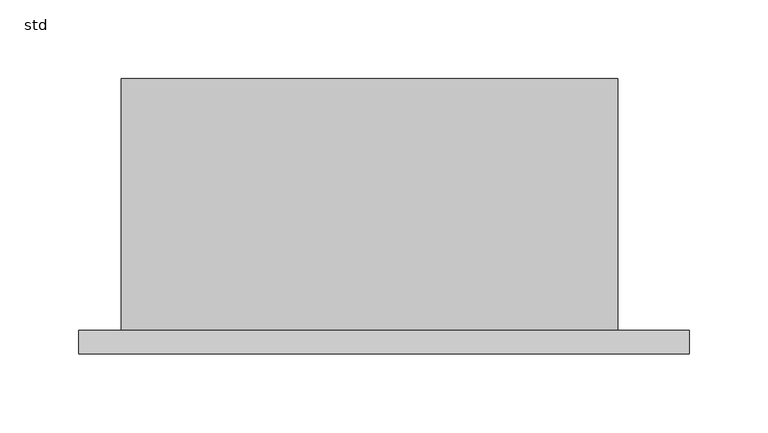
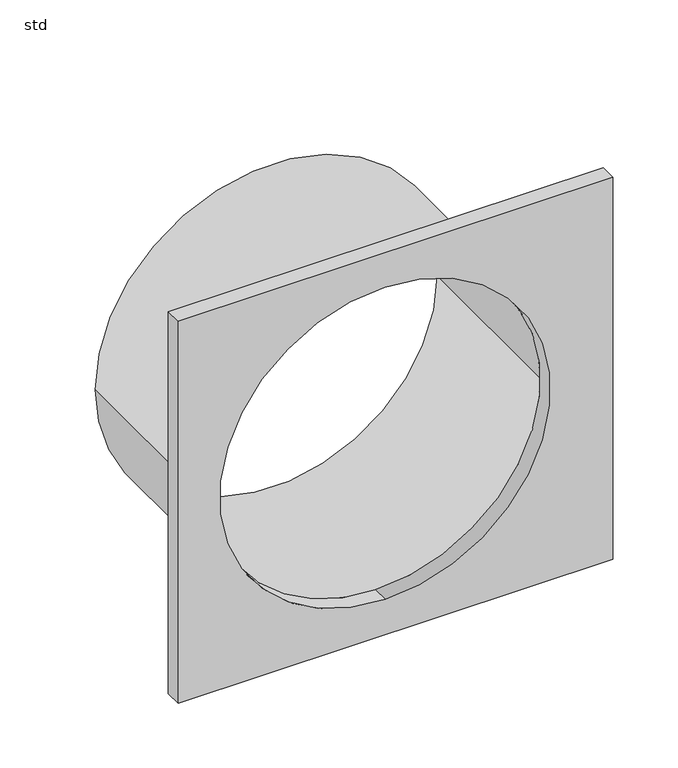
"""IFC4 building model written with IfcOpenShell, lengths in millimetres: pipe fitting geometry, Z_ME_UN_Q-Bic_Plus_Spigot_Plate_315_Wavin_(nested) : std."""

import ifcopenshell
import ifcopenshell.guid

model = None  # the IFC model being written
_history = None  # IfcOwnerHistory: only IFC2X3 demands one
_inside = {}  # id of a spatial element -> (the spatial element, [elements in it])
_under = {}  # id of a project, library or spatial element -> (it, [spatial elements below it])
_declared = {}  # id of a project -> (the project, [libraries it declares])
_typed = {}  # id of a type object -> (the type object, [elements of that type])
_made_of = {}  # id of a material, layer set ... -> (it, [elements and type objects made of it])


def new_model(schema):
    """Start an empty IFC model of exactly this schema.

    Asked for "IFC4X3", IfcOpenShell would pick the latest addendum, in which some entities
    have other attributes; the version numbers below select the first issue.
    IFC2X3 requires an IfcOwnerHistory on every rooted entity: one is made here for all.
    """
    global model, _history
    if schema == "IFC4X3":
        model = ifcopenshell.file(schema_version=(4, 3, 0, 0))
    else:
        model = ifcopenshell.file(schema=schema)
    _inside.clear()
    _under.clear()
    _declared.clear()
    _typed.clear()
    _made_of.clear()
    _history = None
    if model.schema == "IFC2X3":
        org = make("IfcOrganization", Name="unknown")
        user = make(
            "IfcPersonAndOrganization",
            ThePerson=make("IfcPerson", FamilyName="unknown"),
            TheOrganization=org,
        )
        app = make(
            "IfcApplication",
            ApplicationDeveloper=org,
            Version="unknown",
            ApplicationFullName="unknown",
            ApplicationIdentifier="unknown",
        )
        _history = make(
            "IfcOwnerHistory",
            OwningUser=user,
            OwningApplication=app,
            ChangeAction="ADDED",
            CreationDate=0,
        )
    return model


def make(cls, **values):
    """One entity of the class cls with the attributes given. An attribute that is None is left unset."""
    return model.create_entity(
        cls, **{name: value for name, value in values.items() if value is not None}
    )


def rooted(cls, **values):
    """An entity with a GlobalId (a new one), such as an element, a storey or a relation."""
    return make(cls, GlobalId=ifcopenshell.guid.new(), OwnerHistory=_history, **values)


def si_unit(unit_type, name, prefix=None):
    """IfcSIUnit, for example si_unit("LENGTHUNIT", "METRE", prefix="MILLI")."""
    return make("IfcSIUnit", UnitType=unit_type, Prefix=prefix, Name=name)


def assignment(units):
    """IfcUnitAssignment: the units of a project."""
    return None if units is None else make("IfcUnitAssignment", Units=units)


def point(xyz):
    """IfcCartesianPoint."""
    return None if xyz is None else make("IfcCartesianPoint", Coordinates=xyz)


def direction(xyz):
    """IfcDirection."""
    return None if xyz is None else make("IfcDirection", DirectionRatios=xyz)


def frame(location, z_axis=None, x_axis=None):
    """IfcAxis2Placement3D, a coordinate frame: its origin and axes. An axis left out is left unset."""
    return make(
        "IfcAxis2Placement3D",
        Location=point(location),
        Axis=direction(z_axis),
        RefDirection=direction(x_axis),
    )


def frame_2d(location, x_axis=None):
    """IfcAxis2Placement2D, a coordinate frame in the plane: its origin and x axis."""
    return make(
        "IfcAxis2Placement2D", Location=point(location), RefDirection=direction(x_axis)
    )


def origin():
    """The frame at (0, 0, 0) with its axes left unset."""
    return frame((0.0, 0.0, 0.0))


def place(relative_to, where):
    """IfcLocalPlacement: puts the frame where relative to a parent placement (None: the world)."""
    return make(
        "IfcLocalPlacement", PlacementRelTo=relative_to, RelativePlacement=where
    )


def context(
    kind, dimensions, precision=None, world=None, true_north=None, identifier=None
):
    """IfcGeometricRepresentationContext, for example the 3D "Model" context."""
    return make(
        "IfcGeometricRepresentationContext",
        ContextIdentifier=identifier,
        ContextType=kind,
        CoordinateSpaceDimension=dimensions,
        Precision=precision,
        WorldCoordinateSystem=world,
        TrueNorth=true_north,
    )


def project(units=None, contexts=None):
    """IfcProject with its units and contexts."""
    return rooted(
        "IfcProject",
        Name="project",
        RepresentationContexts=contexts,
        UnitsInContext=assignment(units),
    )


def spatial(cls, under=None, at=None, **own):
    """A site, building, storey or space (cls), placed at a placement, below another one or the project."""
    s = rooted(cls, ObjectPlacement=at, **own)
    if under is not None:
        _under.setdefault(under.id(), (under, []))[1].append(s)
    return s


def polyline(points):
    """IfcPolyline through the points."""
    return make("IfcPolyline", Points=[point(p) for p in points])


def circle_curve(where, radius):
    """IfcCircle in the frame where."""
    return make("IfcCircle", Position=where, Radius=radius)


def trimmed(basis, trim1, trim2, sense, master):
    """IfcTrimmedCurve: the piece of a basis curve between two trims."""
    return make(
        "IfcTrimmedCurve",
        BasisCurve=basis,
        Trim1=trim1,
        Trim2=trim2,
        SenseAgreement=sense,
        MasterRepresentation=master,
    )


def segment(curve, same_sense, transition):
    """IfcCompositeCurveSegment."""
    return make(
        "IfcCompositeCurveSegment",
        Transition=transition,
        SameSense=same_sense,
        ParentCurve=curve,
    )


def composite_curve(segments, self_intersect=None):
    """IfcCompositeCurve: segments joined end to end."""
    return make("IfcCompositeCurve", Segments=segments, SelfIntersect=self_intersect)


def outline(outer, holes=None, kind="AREA"):
    """IfcArbitraryClosedProfileDef: a profile drawn as a closed curve; with holes, ...WithVoids."""
    if holes is None:
        return make("IfcArbitraryClosedProfileDef", ProfileType=kind, OuterCurve=outer)
    return make(
        "IfcArbitraryProfileDefWithVoids",
        ProfileType=kind,
        OuterCurve=outer,
        InnerCurves=holes,
    )


def extrude(swept, where, along, depth):
    """IfcExtrudedAreaSolid: the profile swept, set in the frame where, extruded along a direction by depth."""
    return make(
        "IfcExtrudedAreaSolid",
        SweptArea=swept,
        Position=where,
        ExtrudedDirection=direction(along),
        Depth=depth,
    )


def shape(context_of_items, identifier, shape_type, items):
    """IfcShapeRepresentation: the items that make up one representation, for example the "Body"."""
    return make(
        "IfcShapeRepresentation",
        ContextOfItems=context_of_items,
        RepresentationIdentifier=identifier,
        RepresentationType=shape_type,
        Items=items,
    )


def source(mapping_origin, context_of_items, identifier, shape_type, items):
    """IfcRepresentationMap: a shape defined once, which mapped items show again and again."""
    return make(
        "IfcRepresentationMap",
        MappingOrigin=mapping_origin,
        MappedRepresentation=shape(context_of_items, identifier, shape_type, items),
    )


def transform(
    local_origin,
    x_axis=None,
    y_axis=None,
    z_axis=None,
    scale=None,
    scale2=None,
    scale3=None,
    uniform=True,
):
    """IfcCartesianTransformationOperator3D, or its non-uniform kind. x_axis, y_axis, z_axis: its Axis1, 2, 3."""
    if uniform:
        return make(
            "IfcCartesianTransformationOperator3D",
            Axis1=direction(x_axis),
            Axis2=direction(y_axis),
            LocalOrigin=point(local_origin),
            Scale=scale,
            Axis3=direction(z_axis),
        )
    return make(
        "IfcCartesianTransformationOperator3DnonUniform",
        Axis1=direction(x_axis),
        Axis2=direction(y_axis),
        LocalOrigin=point(local_origin),
        Scale=scale,
        Axis3=direction(z_axis),
        Scale2=scale2,
        Scale3=scale3,
    )


def mapped(mapping_source, mapping_target):
    """IfcMappedItem: shows the shape of a source again, moved by a transform."""
    return make(
        "IfcMappedItem", MappingSource=mapping_source, MappingTarget=mapping_target
    )


def made_of(thing, what):
    """Note that an element or type object is made of a material, layer set ...; save() writes the relation."""
    if what is not None:
        _made_of.setdefault(what.id(), (what, []))[1].append(thing)
    return thing


def element(
    cls,
    number,
    at=None,
    inside=None,
    cuts=None,
    type_object=None,
    material=None,
    context=None,
    identifier="Body",
    shape_type=None,
    held_by="IfcProductDefinitionShape",
    body=None,
    shapes=None,
    **own,
):
    """One element of the class cls, such as IfcWall. Its Tag is "e" and its number.

    at: its placement. inside: the storey or other place that contains it. cuts: it is an
    opening in that element (IfcRelVoidsElement). A single representation is given by context,
    identifier, shape_type and body (its items); several are given by shapes. held_by: the class
    of the entity that holds the representations. save() writes the other relations.
    """
    e = rooted(cls, Tag="e%d" % number, ObjectPlacement=at, **own)
    if body is not None:
        shapes = [shape(context, identifier, shape_type, body)]
    if shapes is not None:
        e.Representation = make(held_by, Representations=shapes)
    if inside is not None:
        _inside.setdefault(inside.id(), (inside, []))[1].append(e)
    if cuts is not None:
        rooted(
            "IfcRelVoidsElement", RelatingBuildingElement=cuts, RelatedOpeningElement=e
        )
    if type_object is not None:
        _typed.setdefault(type_object.id(), (type_object, []))[1].append(e)
    return made_of(e, material)


def aggregate(whole, parts):
    """IfcRelAggregates: a whole, such as a stair, and the parts it consists of."""
    return rooted("IfcRelAggregates", RelatingObject=whole, RelatedObjects=parts)


def save(model, path):
    """Write the relations noted so far, then the file.

    IfcRelAggregates (storeys below a building ...), IfcRelContainedInSpatialStructure (elements
    in a storey), IfcRelDefinesByType, IfcRelAssociatesMaterial and IfcRelDeclares: one each for
    every whole, place, type object, material and project.
    """
    for whole, parts in _under.values():
        aggregate(whole, parts)
    for where, things in _inside.values():
        rooted(
            "IfcRelContainedInSpatialStructure",
            RelatedElements=things,
            RelatingStructure=where,
        )
    for kind, things in _typed.values():
        rooted("IfcRelDefinesByType", RelatedObjects=things, RelatingType=kind)
    for what, things in _made_of.values():
        rooted("IfcRelAssociatesMaterial", RelatedObjects=things, RelatingMaterial=what)
    for by, libraries in _declared.values():
        rooted("IfcRelDeclares", RelatingContext=by, RelatedDefinitions=libraries)
    model.write(path)


def plane_surface(at):
    """IfcPlane: the flat surface through the origin of the frame at, square to its z axis."""
    return make("IfcPlane", Position=at)


def cylinder_surface(at, radius):
    """IfcCylindricalSurface: all points at the distance radius from the z axis of the frame at."""
    return make("IfcCylindricalSurface", Position=at, Radius=radius)


def revolved_surface(curve, axis_point, axis_direction):
    """IfcSurfaceOfRevolution: the curve turned about the line through axis_point along axis_direction."""
    return make(
        "IfcSurfaceOfRevolution",
        SweptCurve=make("IfcArbitraryOpenProfileDef", ProfileType="CURVE", Curve=curve),
        AxisPosition=make("IfcAxis1Placement", Location=point(axis_point), Axis=direction(axis_direction)),
    )


def advanced_brep(points, edges, surfaces, faces):
    """IfcAdvancedBrep: a solid bounded by faces that lie on surfaces and meet in shared edges.

    An edge is (start, end): straight between two places in points (the first is 0);
    or (start, end, curve); or (start, end, curve, False) where it runs against its curve.
    A face is (place in surfaces, loops), or (place, loops, False) where it looks against
    its surface's normal. A loop lists edges by number (the first is 1), with a minus sign
    where the edge is run from its end to its start. The first loop is the outer one.
    """
    corners = [point(p) for p in points]
    vertices = [make("IfcVertexPoint", VertexGeometry=c) for c in corners]
    made = []
    for start, end, *more in edges:
        made.append(
            make(
                "IfcEdgeCurve",
                EdgeStart=vertices[start],
                EdgeEnd=vertices[end],
                EdgeGeometry=more[0] if more else make("IfcPolyline", Points=[corners[start], corners[end]]),
                SameSense=more[1] if len(more) > 1 else True,
            )
        )
    hull = []
    for where, loops, *sense in faces:
        bounds = []
        for j, loop in enumerate(loops):
            ring = [make("IfcOrientedEdge", EdgeElement=made[abs(k) - 1], Orientation=k > 0) for k in loop]
            bounds.append(
                make(
                    "IfcFaceOuterBound" if j == 0 else "IfcFaceBound",
                    Bound=make("IfcEdgeLoop", EdgeList=ring),
                    Orientation=True,
                )
            )
        hull.append(make("IfcAdvancedFace", Bounds=bounds, FaceSurface=surfaces[where], SameSense=sense[0] if sense else True))
    return make("IfcAdvancedBrep", Outer=make("IfcClosedShell", CfsFaces=hull))


def std_29941be0(model_context):
    return source(origin(), model_context, "Body", "SolidModel", [
        extrude(outline(polyline([(0.0, -184.6), (0.0, 203.0), (360.0, 203.0), (360.0, -184.6), (0.0, -184.6)]), holes=[composite_curve([segment(trimmed(circle_curve(frame_2d((180.3783079, 0.0)), 147.2186452), [point((33.1596627, 0.0))], [point((327.5969531, 0.0))], True, "CARTESIAN"), True, "CONTINUOUS"), segment(trimmed(circle_curve(frame_2d((180.3783079, 0.0)), 147.2186452), [point((327.5969531, 0.0))], [point((33.1596627, 0.0))], True, "CARTESIAN"), True, "CONTINUOUS")], self_intersect=False)]), frame((0.0, 0.0, 0.0), z_axis=(0.0, 1.0, 0.0), x_axis=(0.0, 0.0, 1.0)), (0.0, 0.0, 1.0), 15.0),
        advanced_brep(
        [(157.5, 175.0, 180.0), (-157.5, 175.0, 180.0), (-147.5, 175.0, 180.0), (147.5, 175.0, 180.0), (157.5, 15.0, 180.0), (-157.5, 15.0, 180.0), (-147.5, 15.0, 180.0), (147.5, 15.0, 180.0)],
        [
            (0, 1, circle_curve(frame((0.0, 175.0, 180.0), z_axis=(0.0, 1.0, 0.0), x_axis=(-1.0, 0.0, 0.0)), 157.5)),
            (1, 2),
            (2, 3, circle_curve(frame((0.0, 175.0, 180.0), z_axis=(0.0, -1.0, 0.0), x_axis=(-1.0, 0.0, 0.0)), 147.5)),
            (3, 0),
            (1, 0, circle_curve(frame((0.0, 175.0, 180.0), z_axis=(0.0, 1.0, 0.0), x_axis=(-1.0, 0.0, 0.0)), 157.5)),
            (3, 2, circle_curve(frame((0.0, 175.0, 180.0), z_axis=(0.0, -1.0, 0.0), x_axis=(-1.0, 0.0, 0.0)), 147.5)),
            (4, 5, circle_curve(frame((0.0, 15.0, 180.0), z_axis=(0.0, 1.0, 0.0), x_axis=(-1.0, 0.0, 0.0)), 157.5)),
            (5, 1),
            (0, 4),
            (5, 4, circle_curve(frame((0.0, 15.0, 180.0), z_axis=(0.0, 1.0, 0.0), x_axis=(-1.0, 0.0, 0.0)), 157.5)),
            (2, 6),
            (6, 7, circle_curve(frame((0.0, 15.0, 180.0), z_axis=(0.0, -1.0, 0.0), x_axis=(-1.0, 0.0, 0.0)), 147.5)),
            (7, 3),
            (7, 6, circle_curve(frame((0.0, 15.0, 180.0), z_axis=(0.0, -1.0, 0.0), x_axis=(-1.0, 0.0, 0.0)), 147.5)),
            (6, 5),
            (4, 7),
        ],
        [
            plane_surface(frame((0.0, 175.0, 180.0), z_axis=(0.0, 1.0, 0.0), x_axis=(-1.0, 0.0, 0.0))),
            cylinder_surface(frame((0.0, 2025.0, 180.0), z_axis=(0.0, -1.0, 0.0), x_axis=(-1.0, 0.0, 0.0)), 157.5),
            revolved_surface(polyline([(-147.5, 15.0, 180.0), (-147.5, 175.0, 180.0)]), (0.0, 2025.0, 180.0), (0.0, -1.0, 0.0)),
            plane_surface(frame((0.0, 15.0, 180.0), z_axis=(0.0, -1.0, 0.0), x_axis=(-1.0, 0.0, 0.0))),
        ],
        [
            (0, [[1, 2, 3, 4]]),
            (0, [[5, -4, 6, -2]]),
            (1, [[7, 8, -1, 9]]),
            (1, [[10, -9, -5, -8]]),
            (2, [[-3, 11, 12, 13]]),
            (2, [[-6, -13, 14, -11]]),
            (3, [[-12, 15, -7, 16]]),
            (3, [[-14, -16, -10, -15]]),
        ],
    ),
    ])


if __name__ == "__main__":
    model = new_model("IFC4")
    model_context = context("Model", 3, world=origin())
    ifc_project = project(units=[si_unit("LENGTHUNIT", "METRE", prefix="MILLI")], contexts=[model_context])
    site = spatial("IfcSite", under=ifc_project)
    building = spatial("IfcBuilding", under=site)
    placement = place(None, origin())
    std_shape = std_29941be0(model_context)
    element("IfcPipeFitting", 1, ObjectType="Z_ME_UN_Q-Bic_Plus_Spigot_Plate_315_Wavin_(nested) : std", at=placement, inside=building, context=model_context, shape_type="MappedRepresentation", body=[
        mapped(std_shape, transform((0.0, 0.0, 0.0), x_axis=(1.0, 0.0, 0.0), y_axis=(0.0, 1.0, 0.0), z_axis=(0.0, 0.0, 1.0))),
    ])
    save(model, "model.ifc")
